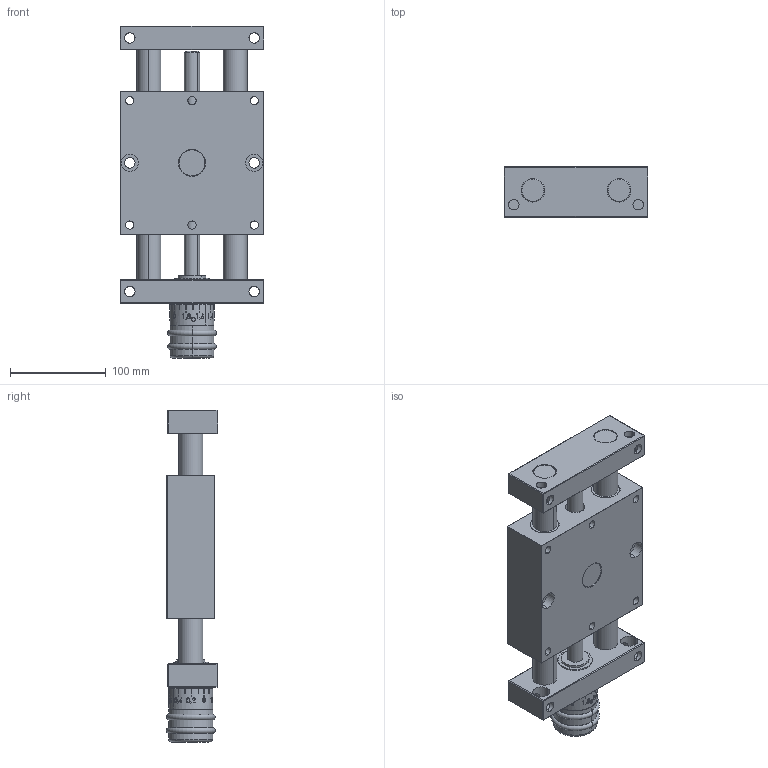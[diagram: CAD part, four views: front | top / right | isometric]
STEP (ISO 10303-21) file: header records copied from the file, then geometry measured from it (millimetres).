
FILE_DESCRIPTION (( 'STEP AP203' ), '1' );
FILE_NAME ('PT8625-SK-Positioniertisch.STEP', '2016-01-15T17:25:08', ( '' ), ( '' ), 'SwSTEP 2.0', 'SolidWorks 2014', '' );
FILE_SCHEMA (( 'CONFIG_CONTROL_DESIGN' ));
Length unit declared in the file: millimetre
Products named in the file (3): PT25-000-02-Schlitten-komplett_n_Standard; PT8625-SK-Positioniertisch; PT8625-000-01-Festteil-SK_n_Standard
Assembly tree (2 placements, depth 2):
  PT8625-SK-Positioniertisch
    PT8625-000-01-Festteil-SK_n_Standard
    PT25-000-02-Schlitten-komplett_n_Standard
Bounding box: 150 x 53.47 x 347 mm (x, y, z)
Volume: 1629514.7 mm3; surface area: 245314.6 mm2
Topology: 2 solids, 7 shells, 820 faces, 2009 edges, 1265 vertices
Faces by surface type: plane 276, cylinder 227, bspline 179, cone 62, torus 62, sphere 14
Entity records: 52846 total; most frequent: CARTESIAN_POINT 34427, ORIENTED_EDGE 3986, DIRECTION 3324, EDGE_CURVE 1993, AXIS2_PLACEMENT_3D 1327, VERTEX_POINT 1265, EDGE_LOOP 960, FACE_OUTER_BOUND 820
